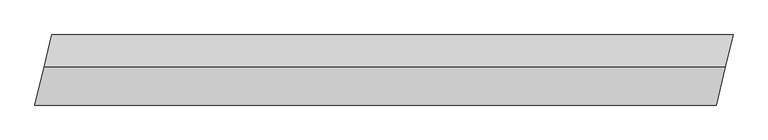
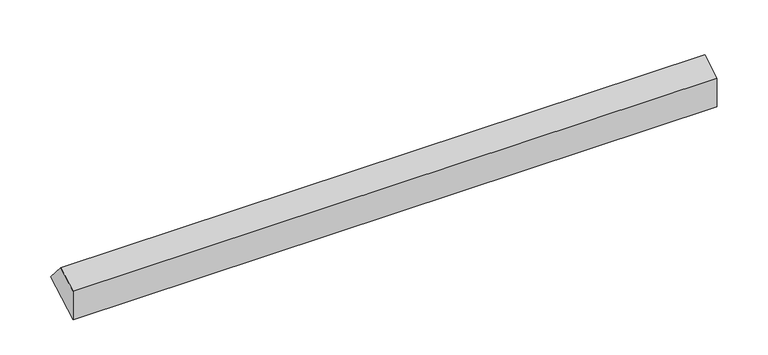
"""IFC4 building model written with IfcOpenShell, lengths in millimetres: proxy geometry, Gousset inférieur E : gousset inférieur E."""

import ifcopenshell
import ifcopenshell.guid

model = None  # the IFC model being written
_history = None  # IfcOwnerHistory: only IFC2X3 demands one
_inside = {}  # id of a spatial element -> (the spatial element, [elements in it])
_under = {}  # id of a project, library or spatial element -> (it, [spatial elements below it])
_declared = {}  # id of a project -> (the project, [libraries it declares])
_typed = {}  # id of a type object -> (the type object, [elements of that type])
_made_of = {}  # id of a material, layer set ... -> (it, [elements and type objects made of it])


def new_model(schema):
    """Start an empty IFC model of exactly this schema.

    Asked for "IFC4X3", IfcOpenShell would pick the latest addendum, in which some entities
    have other attributes; the version numbers below select the first issue.
    IFC2X3 requires an IfcOwnerHistory on every rooted entity: one is made here for all.
    """
    global model, _history
    if schema == "IFC4X3":
        model = ifcopenshell.file(schema_version=(4, 3, 0, 0))
    else:
        model = ifcopenshell.file(schema=schema)
    _inside.clear()
    _under.clear()
    _declared.clear()
    _typed.clear()
    _made_of.clear()
    _history = None
    if model.schema == "IFC2X3":
        org = make("IfcOrganization", Name="unknown")
        user = make(
            "IfcPersonAndOrganization",
            ThePerson=make("IfcPerson", FamilyName="unknown"),
            TheOrganization=org,
        )
        app = make(
            "IfcApplication",
            ApplicationDeveloper=org,
            Version="unknown",
            ApplicationFullName="unknown",
            ApplicationIdentifier="unknown",
        )
        _history = make(
            "IfcOwnerHistory",
            OwningUser=user,
            OwningApplication=app,
            ChangeAction="ADDED",
            CreationDate=0,
        )
    return model


def make(cls, **values):
    """One entity of the class cls with the attributes given. An attribute that is None is left unset."""
    return model.create_entity(
        cls, **{name: value for name, value in values.items() if value is not None}
    )


def rooted(cls, **values):
    """An entity with a GlobalId (a new one), such as an element, a storey or a relation."""
    return make(cls, GlobalId=ifcopenshell.guid.new(), OwnerHistory=_history, **values)


def si_unit(unit_type, name, prefix=None):
    """IfcSIUnit, for example si_unit("LENGTHUNIT", "METRE", prefix="MILLI")."""
    return make("IfcSIUnit", UnitType=unit_type, Prefix=prefix, Name=name)


def assignment(units):
    """IfcUnitAssignment: the units of a project."""
    return None if units is None else make("IfcUnitAssignment", Units=units)


def point(xyz):
    """IfcCartesianPoint."""
    return None if xyz is None else make("IfcCartesianPoint", Coordinates=xyz)


def direction(xyz):
    """IfcDirection."""
    return None if xyz is None else make("IfcDirection", DirectionRatios=xyz)


def frame(location, z_axis=None, x_axis=None):
    """IfcAxis2Placement3D, a coordinate frame: its origin and axes. An axis left out is left unset."""
    return make(
        "IfcAxis2Placement3D",
        Location=point(location),
        Axis=direction(z_axis),
        RefDirection=direction(x_axis),
    )


def origin():
    """The frame at (0, 0, 0) with its axes left unset."""
    return frame((0.0, 0.0, 0.0))


def place(relative_to, where):
    """IfcLocalPlacement: puts the frame where relative to a parent placement (None: the world)."""
    return make(
        "IfcLocalPlacement", PlacementRelTo=relative_to, RelativePlacement=where
    )


def context(
    kind, dimensions, precision=None, world=None, true_north=None, identifier=None
):
    """IfcGeometricRepresentationContext, for example the 3D "Model" context."""
    return make(
        "IfcGeometricRepresentationContext",
        ContextIdentifier=identifier,
        ContextType=kind,
        CoordinateSpaceDimension=dimensions,
        Precision=precision,
        WorldCoordinateSystem=world,
        TrueNorth=true_north,
    )


def project(units=None, contexts=None):
    """IfcProject with its units and contexts."""
    return rooted(
        "IfcProject",
        Name="project",
        RepresentationContexts=contexts,
        UnitsInContext=assignment(units),
    )


def spatial(cls, under=None, at=None, **own):
    """A site, building, storey or space (cls), placed at a placement, below another one or the project."""
    s = rooted(cls, ObjectPlacement=at, **own)
    if under is not None:
        _under.setdefault(under.id(), (under, []))[1].append(s)
    return s


def faces_of(points, faces, orient=None, outer=None):
    """IfcFace entities. A face is a list of loops; a loop is a list of indices into points, from 0.

    orient and outer hold one flag for each loop. By default every Orientation is true, the
    first loop of a face is its IfcFaceOuterBound and the others are IfcFaceBound.
    """
    made = []
    for i, loops in enumerate(faces):
        bounds = []
        for j, loop in enumerate(loops):
            is_outer = j == 0 if outer is None else outer[i][j]
            bounds.append(
                make(
                    "IfcFaceOuterBound" if is_outer else "IfcFaceBound",
                    Bound=make("IfcPolyLoop", Polygon=[points[k] for k in loop]),
                    Orientation=True if orient is None else orient[i][j],
                )
            )
        made.append(make("IfcFace", Bounds=bounds))
    return made


def faceted_brep(points, faces, orient=None, outer=None, voids=None):
    """IfcFacetedBrep: a solid bounded by flat faces; with voids (closed shells), ...WithVoids."""
    shared = [point(p) for p in points]
    hull = make("IfcClosedShell", CfsFaces=faces_of(shared, faces, orient, outer))
    if voids is None:
        return make("IfcFacetedBrep", Outer=hull)
    return make(
        "IfcFacetedBrepWithVoids",
        Outer=hull,
        Voids=[
            make(cls, CfsFaces=faces_of(shared, fs, o, b)) for cls, fs, o, b in voids
        ],
    )


def shape(context_of_items, identifier, shape_type, items):
    """IfcShapeRepresentation: the items that make up one representation, for example the "Body"."""
    return make(
        "IfcShapeRepresentation",
        ContextOfItems=context_of_items,
        RepresentationIdentifier=identifier,
        RepresentationType=shape_type,
        Items=items,
    )


def source(mapping_origin, context_of_items, identifier, shape_type, items):
    """IfcRepresentationMap: a shape defined once, which mapped items show again and again."""
    return make(
        "IfcRepresentationMap",
        MappingOrigin=mapping_origin,
        MappedRepresentation=shape(context_of_items, identifier, shape_type, items),
    )


def transform(
    local_origin,
    x_axis=None,
    y_axis=None,
    z_axis=None,
    scale=None,
    scale2=None,
    scale3=None,
    uniform=True,
):
    """IfcCartesianTransformationOperator3D, or its non-uniform kind. x_axis, y_axis, z_axis: its Axis1, 2, 3."""
    if uniform:
        return make(
            "IfcCartesianTransformationOperator3D",
            Axis1=direction(x_axis),
            Axis2=direction(y_axis),
            LocalOrigin=point(local_origin),
            Scale=scale,
            Axis3=direction(z_axis),
        )
    return make(
        "IfcCartesianTransformationOperator3DnonUniform",
        Axis1=direction(x_axis),
        Axis2=direction(y_axis),
        LocalOrigin=point(local_origin),
        Scale=scale,
        Axis3=direction(z_axis),
        Scale2=scale2,
        Scale3=scale3,
    )


def mapped(mapping_source, mapping_target):
    """IfcMappedItem: shows the shape of a source again, moved by a transform."""
    return make(
        "IfcMappedItem", MappingSource=mapping_source, MappingTarget=mapping_target
    )


def made_of(thing, what):
    """Note that an element or type object is made of a material, layer set ...; save() writes the relation."""
    if what is not None:
        _made_of.setdefault(what.id(), (what, []))[1].append(thing)
    return thing


def element(
    cls,
    number,
    at=None,
    inside=None,
    cuts=None,
    type_object=None,
    material=None,
    context=None,
    identifier="Body",
    shape_type=None,
    held_by="IfcProductDefinitionShape",
    body=None,
    shapes=None,
    **own,
):
    """One element of the class cls, such as IfcWall. Its Tag is "e" and its number.

    at: its placement. inside: the storey or other place that contains it. cuts: it is an
    opening in that element (IfcRelVoidsElement). A single representation is given by context,
    identifier, shape_type and body (its items); several are given by shapes. held_by: the class
    of the entity that holds the representations. save() writes the other relations.
    """
    e = rooted(cls, Tag="e%d" % number, ObjectPlacement=at, **own)
    if body is not None:
        shapes = [shape(context, identifier, shape_type, body)]
    if shapes is not None:
        e.Representation = make(held_by, Representations=shapes)
    if inside is not None:
        _inside.setdefault(inside.id(), (inside, []))[1].append(e)
    if cuts is not None:
        rooted(
            "IfcRelVoidsElement", RelatingBuildingElement=cuts, RelatedOpeningElement=e
        )
    if type_object is not None:
        _typed.setdefault(type_object.id(), (type_object, []))[1].append(e)
    return made_of(e, material)


def aggregate(whole, parts):
    """IfcRelAggregates: a whole, such as a stair, and the parts it consists of."""
    return rooted("IfcRelAggregates", RelatingObject=whole, RelatedObjects=parts)


def save(model, path):
    """Write the relations noted so far, then the file.

    IfcRelAggregates (storeys below a building ...), IfcRelContainedInSpatialStructure (elements
    in a storey), IfcRelDefinesByType, IfcRelAssociatesMaterial and IfcRelDeclares: one each for
    every whole, place, type object, material and project.
    """
    for whole, parts in _under.values():
        aggregate(whole, parts)
    for where, things in _inside.values():
        rooted(
            "IfcRelContainedInSpatialStructure",
            RelatedElements=things,
            RelatingStructure=where,
        )
    for kind, things in _typed.values():
        rooted("IfcRelDefinesByType", RelatedObjects=things, RelatingType=kind)
    for what, things in _made_of.values():
        rooted("IfcRelAssociatesMaterial", RelatedObjects=things, RelatingMaterial=what)
    for by, libraries in _declared.values():
        rooted("IfcRelDeclares", RelatingContext=by, RelatedDefinitions=libraries)
    model.write(path)


def generic_models_2247c664(model_context):
    return source(origin(), model_context, "Body", "Brep", [
        faceted_brep([(-6038.8666255, -2900.0, 1200.0), (-6038.8666255, -2900.0, 700.0), (4653.6345839, -2900.0, 700.0), (4653.6345839, -2900.0, 1200.0), (-5776.1502038, -1800.0, 700.0), (4916.3510055, -1800.0, 700.0), (-5895.5667591, -2300.0, 1200.0), (4796.9344502, -2300.0, 1200.0)], [[[0, 1, 2, 3]], [[1, 4, 5, 2]], [[4, 6, 7, 5]], [[6, 0, 3, 7]], [[1, 0, 6, 4]], [[3, 2, 5, 7]]]),
    ])


if __name__ == "__main__":
    model = new_model("IFC4")
    model_context = context("Model", 3, world=origin())
    ifc_project = project(units=[si_unit("LENGTHUNIT", "METRE", prefix="MILLI")], contexts=[model_context])
    site = spatial("IfcSite", under=ifc_project)
    building = spatial("IfcBuilding", under=site)
    placement = place(None, origin())
    generic_models_shape = generic_models_2247c664(model_context)
    element("IfcBuildingElementProxy", 1, Name="Gousset inférieur E : gousset inférieur E", ObjectType="Gousset inférieur E : gousset inférieur E", at=placement, inside=building, context=model_context, shape_type="MappedRepresentation", body=[
        mapped(generic_models_shape, transform((0.0, 0.0, 0.0), x_axis=(1.0, 0.0, 0.0), y_axis=(0.0, 1.0, 0.0), z_axis=(0.0, 0.0, 1.0))),
    ])
    save(model, "model.ifc")
